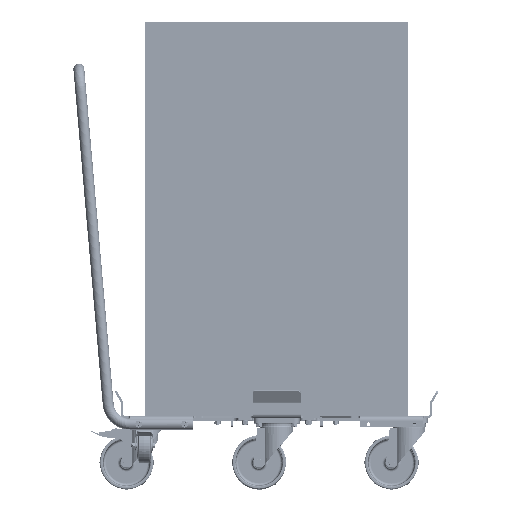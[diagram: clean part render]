
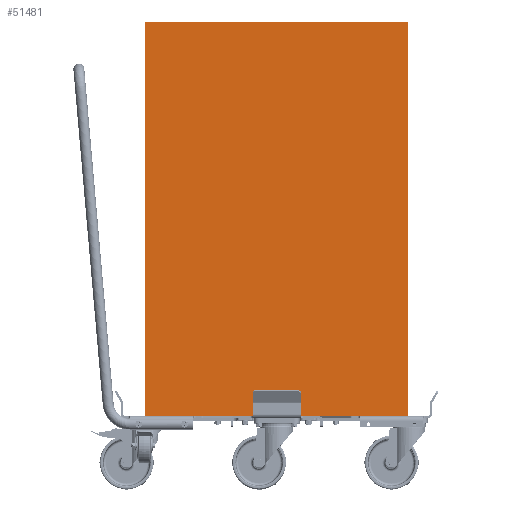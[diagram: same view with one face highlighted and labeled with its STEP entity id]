
A CAD part, top view. The second image highlights one B-rep face of the part: STEP entity #51481.
In plain terms, the highlighted planar face has unit normal (0, 0, 1).
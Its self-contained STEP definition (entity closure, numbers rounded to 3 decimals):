
#24 = CARTESIAN_POINT ( 'NONE',  ( -300., 900., 300. ) ) ;
#4613 = DIRECTION ( 'NONE',  ( 0., -1., 0. ) ) ;
#12383 = CARTESIAN_POINT ( 'NONE',  ( 300., 900., 300. ) ) ;
#15036 = ORIENTED_EDGE ( 'NONE', *, *, #50958, .T. ) ;
#15075 = CARTESIAN_POINT ( 'NONE',  ( 300., 900., 300. ) ) ;
#18587 = LINE ( 'NONE', #52023, #88974 ) ;
#22444 = CARTESIAN_POINT ( 'NONE',  ( 300., 0., 300. ) ) ;
#28014 = CARTESIAN_POINT ( 'NONE',  ( -300., 900., 300. ) ) ;
#28193 = VECTOR ( 'NONE', #55895, 1000. ) ;
#30836 = CARTESIAN_POINT ( 'NONE',  ( -300., 0., 300. ) ) ;
#33570 = DIRECTION ( 'NONE',  ( 0., -1., 0. ) ) ;
#35561 = VECTOR ( 'NONE', #33570, 1000. ) ;
#46355 = LINE ( 'NONE', #79816, #102239 ) ;
#48541 = DIRECTION ( 'NONE',  ( 0., 0., -1. ) ) ;
#49643 = VERTEX_POINT ( 'NONE', #28014 ) ;
#49696 = VERTEX_POINT ( 'NONE', #61918 ) ;
#49841 = EDGE_CURVE ( 'NONE', #82944, #49696, #97658, .T. ) ;
#50958 = EDGE_CURVE ( 'NONE', #49643, #82944, #75223, .T. ) ;
#51441 = EDGE_CURVE ( 'NONE', #98584, #49696, #46355, .T. ) ;
#51481 = ADVANCED_FACE ( 'NONE', ( #56715 ), #90233, .F. ) ;
#51797 = EDGE_LOOP ( 'NONE', ( #87797, #75893, #71003, #15036 ) ) ;
#52023 = CARTESIAN_POINT ( 'NONE',  ( 300., 900., 300. ) ) ;
#55895 = DIRECTION ( 'NONE',  ( 1., 0., 0. ) ) ;
#56715 = FACE_OUTER_BOUND ( 'NONE', #51797, .T. ) ;
#61918 = CARTESIAN_POINT ( 'NONE',  ( 300., 0., 300. ) ) ;
#67852 = EDGE_CURVE ( 'NONE', #49643, #98584, #18587, .T. ) ;
#71003 = ORIENTED_EDGE ( 'NONE', *, *, #67852, .F. ) ;
#75223 = LINE ( 'NONE', #24, #35561 ) ;
#75893 = ORIENTED_EDGE ( 'NONE', *, *, #51441, .F. ) ;
#77655 = AXIS2_PLACEMENT_3D ( 'NONE', #15075, #48541, #82004 ) ;
#79816 = CARTESIAN_POINT ( 'NONE',  ( 300., 900., 300. ) ) ;
#82004 = DIRECTION ( 'NONE',  ( -1., 0., 0. ) ) ;
#82944 = VERTEX_POINT ( 'NONE', #30836 ) ;
#85504 = DIRECTION ( 'NONE',  ( 1., 0., 0. ) ) ;
#87797 = ORIENTED_EDGE ( 'NONE', *, *, #49841, .T. ) ;
#88974 = VECTOR ( 'NONE', #85504, 1000. ) ;
#90233 = PLANE ( 'NONE',  #77655 ) ;
#97658 = LINE ( 'NONE', #22444, #28193 ) ;
#98584 = VERTEX_POINT ( 'NONE', #12383 ) ;
#102239 = VECTOR ( 'NONE', #4613, 1000. ) ;
